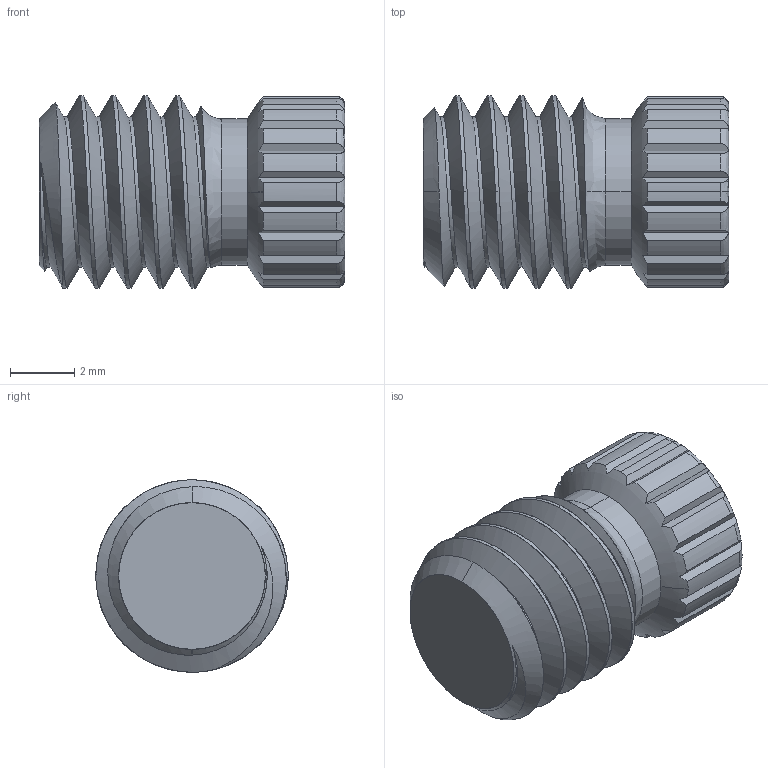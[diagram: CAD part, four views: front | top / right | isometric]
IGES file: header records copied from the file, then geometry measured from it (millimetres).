
Start section: SolidWorks IGES file using analytic representation for surfaces
Global section: file name: Z:\g2 CAD\EREZ PDM TMP\OT-IGES\BC0500-OTX-Metric Screw Puck Centering.IGS; native system: SolidWorks 2015; preprocessor: SolidWorks 2015; author: Erez; date: 160101.203516; units: millimetre
Bounding box: 9.53 x 6 x 6 mm (x, y, z)
Surface area: 282.6 mm2 (no closed solid volume)
Topology: 0 solids, 0 shells, 89 faces, 1085 edges, 1084 vertices
Faces by surface type: bspline 50, revolution 39
